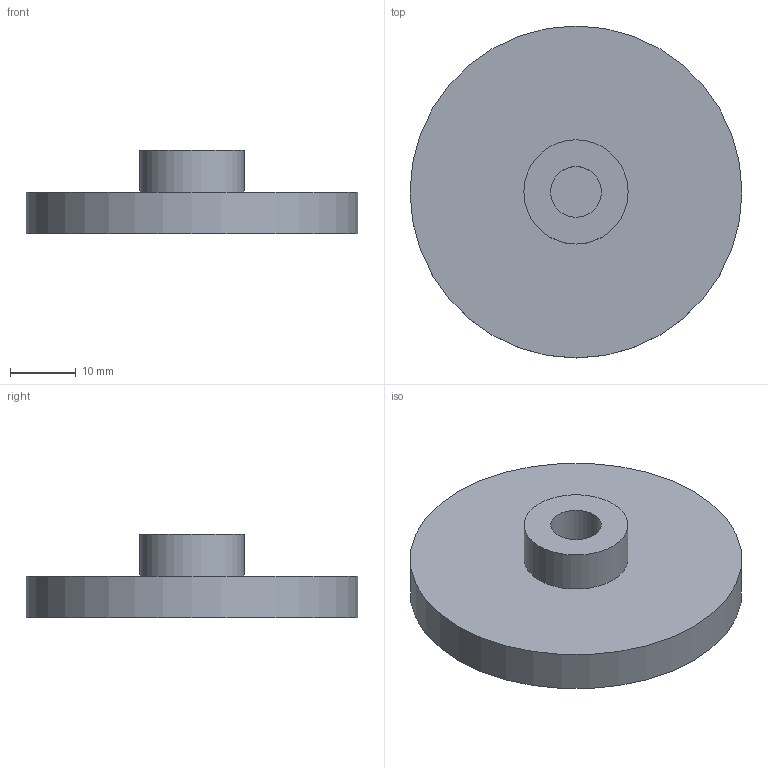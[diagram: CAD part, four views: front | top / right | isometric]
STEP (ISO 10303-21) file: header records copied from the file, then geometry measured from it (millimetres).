
FILE_DESCRIPTION((''),'2;1');
FILE_NAME('F:\CAD files\Itr\3D MARKETING MODELS\GRIPS\G1009\G1009.stp','2017-04-20T13:51:37',('mlampen'),(''),'Autodesk Inventor 2010','Autodesk Inventor 2010','');
FILE_SCHEMA(('AUTOMOTIVE_DESIGN { 1 0 10303 214 1 1 1 1 }'));
Length unit declared in the file: inch
Products named in the file (1): Part2
Bounding box: 50.55 x 50.55 x 12.7 mm (x, y, z)
Volume: 13642 mm3; surface area: 5523.1 mm2
Topology: 1 solids, 1 shells, 7 faces, 9 edges, 6 vertices
Faces by surface type: plane 4, cylinder 3
Full cylindrical faces by diameter (mm): 7.722 x1, 15.875 x1, 50.546 x1
Entity records: 162 total; most frequent: DIRECTION 28, CARTESIAN_POINT 20, AXIS2_PLACEMENT_3D 14, ORIENTED_EDGE 12, EDGE_LOOP 12, FACE_OUTER_BOUND 7, ADVANCED_FACE 7, VERTEX_POINT 6
